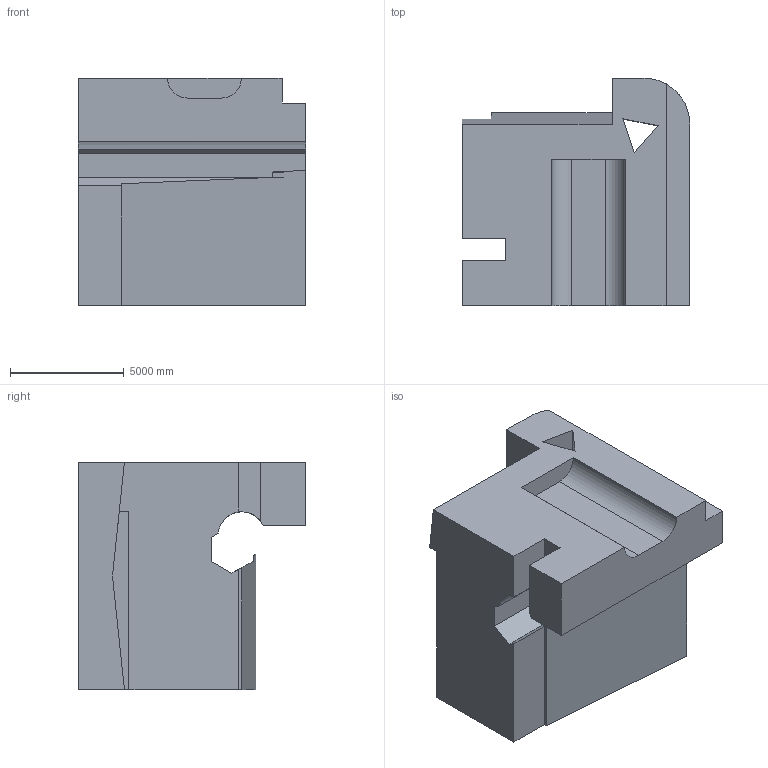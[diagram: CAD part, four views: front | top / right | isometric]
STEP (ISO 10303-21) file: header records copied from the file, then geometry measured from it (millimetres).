
FILE_DESCRIPTION (( 'STEP AP203' ), '1' );
FILE_NAME ('942.STEP', '2022-07-29T14:31:55', ( 'user' ), ( '' ), 'SwSTEP 2.0', 'SolidWorks 2021', '' );
FILE_SCHEMA (( 'CONFIG_CONTROL_DESIGN' ));
Length unit declared in the file: centimetre
Products named in the file (1): 942
Bounding box: 10000 x 10000 x 10000 mm (x, y, z)
Volume: 605547179577.7 mm3; surface area: 611133468.3 mm2
Topology: 1 solids, 1 shells, 38 faces, 108 edges, 72 vertices
Faces by surface type: plane 32, cylinder 6
Entity records: 1307 total; most frequent: CARTESIAN_POINT 222, ORIENTED_EDGE 216, DIRECTION 199, EDGE_CURVE 108, VECTOR 93, LINE 93, VERTEX_POINT 72, AXIS2_PLACEMENT_3D 53
